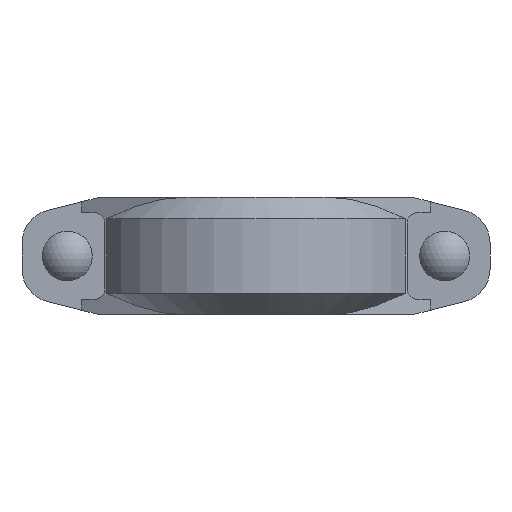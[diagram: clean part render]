
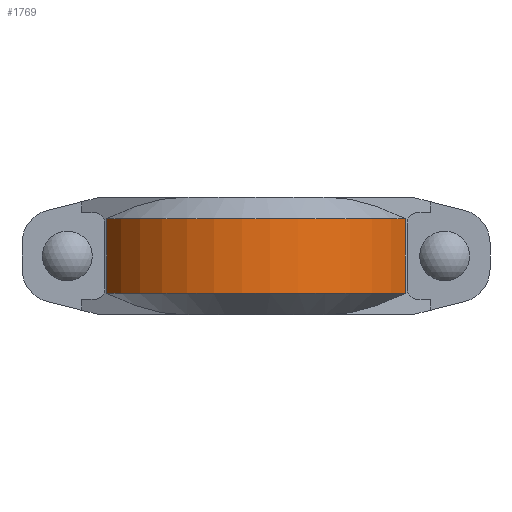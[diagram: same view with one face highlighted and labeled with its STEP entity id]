
A CAD part, front view. The second image highlights one B-rep face of the part: STEP entity #1769.
In plain terms, the highlighted cylindrical face has radius 73.787 mm (diameter 147.574 mm), a partial arc.
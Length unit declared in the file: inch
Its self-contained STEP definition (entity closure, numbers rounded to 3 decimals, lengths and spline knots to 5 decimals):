
#206=FACE_OUTER_BOUND('',#303,.T.);
#303=EDGE_LOOP('',(#1497,#1498,#1499,#1500));
#378=LINE('',#2666,#535);
#434=LINE('',#2829,#591);
#535=VECTOR('',#2139,0.3937);
#591=VECTOR('',#2271,0.3937);
#677=CIRCLE('',#1911,2.905);
#681=CIRCLE('',#1918,2.905);
#764=VERTEX_POINT('',#2661);
#765=VERTEX_POINT('',#2665);
#821=VERTEX_POINT('',#2824);
#822=VERTEX_POINT('',#2828);
#946=EDGE_CURVE('',#765,#764,#378,.T.);
#1021=EDGE_CURVE('',#822,#821,#434,.T.);
#1042=EDGE_CURVE('',#764,#822,#677,.T.);
#1049=EDGE_CURVE('',#765,#821,#681,.T.);
#1497=ORIENTED_EDGE('',*,*,#946,.T.);
#1498=ORIENTED_EDGE('',*,*,#1042,.T.);
#1499=ORIENTED_EDGE('',*,*,#1021,.T.);
#1500=ORIENTED_EDGE('',*,*,#1049,.F.);
#1601=CYLINDRICAL_SURFACE('',#1935,2.905);
#1769=ADVANCED_FACE('',(#206),#1601,.T.);
#1911=AXIS2_PLACEMENT_3D('',#2866,#2310,#2311);
#1918=AXIS2_PLACEMENT_3D('',#2880,#2327,#2328);
#1935=AXIS2_PLACEMENT_3D('',#2919,#2375,#2376);
#2139=DIRECTION('',(0.,0.,1.));
#2271=DIRECTION('',(0.,0.,-1.));
#2310=DIRECTION('center_axis',(0.,0.,-1.));
#2311=DIRECTION('ref_axis',(0.,-1.,0.));
#2327=DIRECTION('center_axis',(0.,0.,-1.));
#2328=DIRECTION('ref_axis',(0.,-1.,0.));
#2375=DIRECTION('center_axis',(0.,0.,-1.));
#2376=DIRECTION('ref_axis',(0.,-1.,0.));
#2661=CARTESIAN_POINT('',(2.6189,-1.25714,0.655));
#2665=CARTESIAN_POINT('',(2.6189,-1.25714,-0.655));
#2666=CARTESIAN_POINT('',(2.6189,-1.25714,0.));
#2824=CARTESIAN_POINT('',(-2.6189,-1.25714,-0.655));
#2828=CARTESIAN_POINT('',(-2.6189,-1.25714,0.655));
#2829=CARTESIAN_POINT('',(-2.6189,-1.25714,0.));
#2866=CARTESIAN_POINT('Origin',(0.,0.,0.655));
#2880=CARTESIAN_POINT('Origin',(0.,0.,-0.655));
#2919=CARTESIAN_POINT('Origin',(0.,0.,0.));
